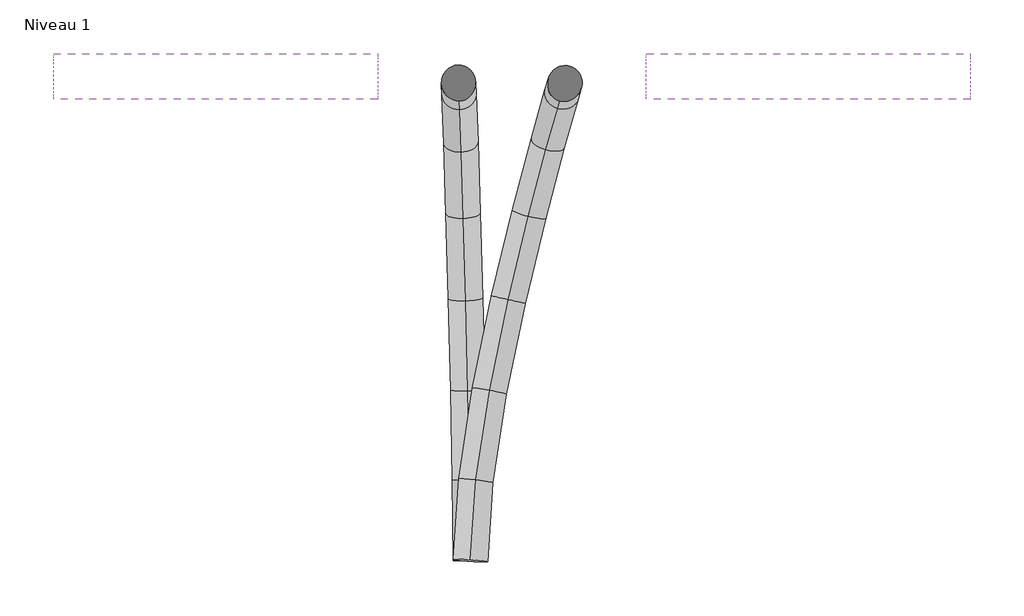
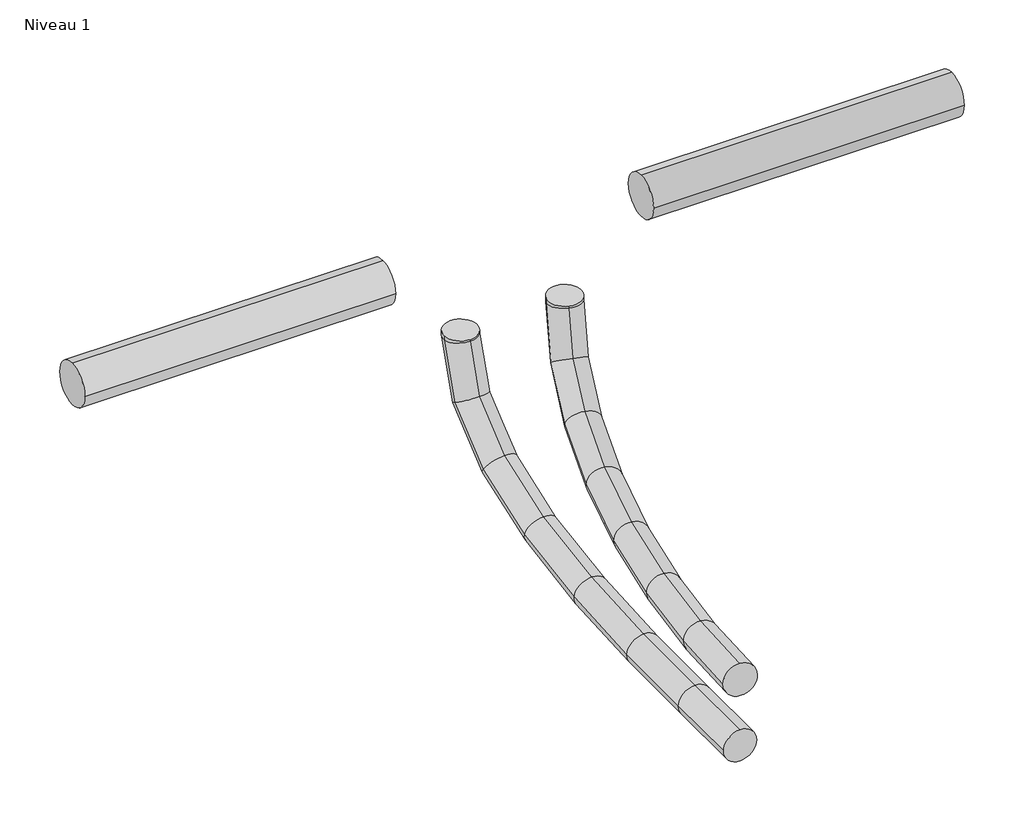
# One storey, incomplete: 4 pipe segments.
"""IFC4 building model written with IfcOpenShell, lengths in millimetres."""

import ifcopenshell
import ifcopenshell.guid

model = None  # the IFC model being written
_history = None  # IfcOwnerHistory: only IFC2X3 demands one
_inside = {}  # id of a spatial element -> (the spatial element, [elements in it])
_under = {}  # id of a project, library or spatial element -> (it, [spatial elements below it])
_declared = {}  # id of a project -> (the project, [libraries it declares])
_typed = {}  # id of a type object -> (the type object, [elements of that type])
_made_of = {}  # id of a material, layer set ... -> (it, [elements and type objects made of it])


def new_model(schema):
    """Start an empty IFC model of exactly this schema.

    Asked for "IFC4X3", IfcOpenShell would pick the latest addendum, in which some entities
    have other attributes; the version numbers below select the first issue.
    IFC2X3 requires an IfcOwnerHistory on every rooted entity: one is made here for all.
    """
    global model, _history
    if schema == "IFC4X3":
        model = ifcopenshell.file(schema_version=(4, 3, 0, 0))
    else:
        model = ifcopenshell.file(schema=schema)
    _inside.clear()
    _under.clear()
    _declared.clear()
    _typed.clear()
    _made_of.clear()
    _history = None
    if model.schema == "IFC2X3":
        org = make("IfcOrganization", Name="unknown")
        user = make(
            "IfcPersonAndOrganization",
            ThePerson=make("IfcPerson", FamilyName="unknown"),
            TheOrganization=org,
        )
        app = make(
            "IfcApplication",
            ApplicationDeveloper=org,
            Version="unknown",
            ApplicationFullName="unknown",
            ApplicationIdentifier="unknown",
        )
        _history = make(
            "IfcOwnerHistory",
            OwningUser=user,
            OwningApplication=app,
            ChangeAction="ADDED",
            CreationDate=0,
        )
    return model


def make(cls, **values):
    """One entity of the class cls with the attributes given. An attribute that is None is left unset."""
    return model.create_entity(
        cls, **{name: value for name, value in values.items() if value is not None}
    )


def rooted(cls, **values):
    """An entity with a GlobalId (a new one), such as an element, a storey or a relation."""
    return make(cls, GlobalId=ifcopenshell.guid.new(), OwnerHistory=_history, **values)


def si_unit(unit_type, name, prefix=None):
    """IfcSIUnit, for example si_unit("LENGTHUNIT", "METRE", prefix="MILLI")."""
    return make("IfcSIUnit", UnitType=unit_type, Prefix=prefix, Name=name)


def assignment(units):
    """IfcUnitAssignment: the units of a project."""
    return None if units is None else make("IfcUnitAssignment", Units=units)


def point(xyz):
    """IfcCartesianPoint."""
    return None if xyz is None else make("IfcCartesianPoint", Coordinates=xyz)


def direction(xyz):
    """IfcDirection."""
    return None if xyz is None else make("IfcDirection", DirectionRatios=xyz)


def frame(location, z_axis=None, x_axis=None):
    """IfcAxis2Placement3D, a coordinate frame: its origin and axes. An axis left out is left unset."""
    return make(
        "IfcAxis2Placement3D",
        Location=point(location),
        Axis=direction(z_axis),
        RefDirection=direction(x_axis),
    )


def frame_2d(location, x_axis=None):
    """IfcAxis2Placement2D, a coordinate frame in the plane: its origin and x axis."""
    return make(
        "IfcAxis2Placement2D", Location=point(location), RefDirection=direction(x_axis)
    )


def origin():
    """The frame at (0, 0, 0) with its axes left unset."""
    return frame((0.0, 0.0, 0.0))


def place(relative_to, where):
    """IfcLocalPlacement: puts the frame where relative to a parent placement (None: the world)."""
    return make(
        "IfcLocalPlacement", PlacementRelTo=relative_to, RelativePlacement=where
    )


def context(
    kind, dimensions, precision=None, world=None, true_north=None, identifier=None
):
    """IfcGeometricRepresentationContext, for example the 3D "Model" context."""
    return make(
        "IfcGeometricRepresentationContext",
        ContextIdentifier=identifier,
        ContextType=kind,
        CoordinateSpaceDimension=dimensions,
        Precision=precision,
        WorldCoordinateSystem=world,
        TrueNorth=true_north,
    )


def project(units=None, contexts=None):
    """IfcProject with its units and contexts."""
    return rooted(
        "IfcProject",
        Name="project",
        RepresentationContexts=contexts,
        UnitsInContext=assignment(units),
    )


def spatial(cls, under=None, at=None, **own):
    """A site, building, storey or space (cls), placed at a placement, below another one or the project."""
    s = rooted(cls, ObjectPlacement=at, **own)
    if under is not None:
        _under.setdefault(under.id(), (under, []))[1].append(s)
    return s


def circle_curve(where, radius):
    """IfcCircle in the frame where."""
    return make("IfcCircle", Position=where, Radius=radius)


def ellipse_curve(where, semi_axis1, semi_axis2):
    """IfcEllipse in the frame where."""
    return make(
        "IfcEllipse", Position=where, SemiAxis1=semi_axis1, SemiAxis2=semi_axis2
    )


def trimmed(basis, trim1, trim2, sense, master):
    """IfcTrimmedCurve: the piece of a basis curve between two trims."""
    return make(
        "IfcTrimmedCurve",
        BasisCurve=basis,
        Trim1=trim1,
        Trim2=trim2,
        SenseAgreement=sense,
        MasterRepresentation=master,
    )


def segment(curve, same_sense, transition):
    """IfcCompositeCurveSegment."""
    return make(
        "IfcCompositeCurveSegment",
        Transition=transition,
        SameSense=same_sense,
        ParentCurve=curve,
    )


def composite_curve(segments, self_intersect=None):
    """IfcCompositeCurve: segments joined end to end."""
    return make("IfcCompositeCurve", Segments=segments, SelfIntersect=self_intersect)


def outline(outer, holes=None, kind="AREA"):
    """IfcArbitraryClosedProfileDef: a profile drawn as a closed curve; with holes, ...WithVoids."""
    if holes is None:
        return make("IfcArbitraryClosedProfileDef", ProfileType=kind, OuterCurve=outer)
    return make(
        "IfcArbitraryProfileDefWithVoids",
        ProfileType=kind,
        OuterCurve=outer,
        InnerCurves=holes,
    )


def extrude(swept, where, along, depth):
    """IfcExtrudedAreaSolid: the profile swept, set in the frame where, extruded along a direction by depth."""
    return make(
        "IfcExtrudedAreaSolid",
        SweptArea=swept,
        Position=where,
        ExtrudedDirection=direction(along),
        Depth=depth,
    )


def shape(context_of_items, identifier, shape_type, items):
    """IfcShapeRepresentation: the items that make up one representation, for example the "Body"."""
    return make(
        "IfcShapeRepresentation",
        ContextOfItems=context_of_items,
        RepresentationIdentifier=identifier,
        RepresentationType=shape_type,
        Items=items,
    )


def made_of(thing, what):
    """Note that an element or type object is made of a material, layer set ...; save() writes the relation."""
    if what is not None:
        _made_of.setdefault(what.id(), (what, []))[1].append(thing)
    return thing


def element(
    cls,
    number,
    at=None,
    inside=None,
    cuts=None,
    type_object=None,
    material=None,
    context=None,
    identifier="Body",
    shape_type=None,
    held_by="IfcProductDefinitionShape",
    body=None,
    shapes=None,
    **own,
):
    """One element of the class cls, such as IfcWall. Its Tag is "e" and its number.

    at: its placement. inside: the storey or other place that contains it. cuts: it is an
    opening in that element (IfcRelVoidsElement). A single representation is given by context,
    identifier, shape_type and body (its items); several are given by shapes. held_by: the class
    of the entity that holds the representations. save() writes the other relations.
    """
    e = rooted(cls, Tag="e%d" % number, ObjectPlacement=at, **own)
    if body is not None:
        shapes = [shape(context, identifier, shape_type, body)]
    if shapes is not None:
        e.Representation = make(held_by, Representations=shapes)
    if inside is not None:
        _inside.setdefault(inside.id(), (inside, []))[1].append(e)
    if cuts is not None:
        rooted(
            "IfcRelVoidsElement", RelatingBuildingElement=cuts, RelatedOpeningElement=e
        )
    if type_object is not None:
        _typed.setdefault(type_object.id(), (type_object, []))[1].append(e)
    return made_of(e, material)


def aggregate(whole, parts):
    """IfcRelAggregates: a whole, such as a stair, and the parts it consists of."""
    return rooted("IfcRelAggregates", RelatingObject=whole, RelatedObjects=parts)


def save(model, path):
    """Write the relations noted so far, then the file.

    IfcRelAggregates (storeys below a building ...), IfcRelContainedInSpatialStructure (elements
    in a storey), IfcRelDefinesByType, IfcRelAssociatesMaterial and IfcRelDeclares: one each for
    every whole, place, type object, material and project.
    """
    for whole, parts in _under.values():
        aggregate(whole, parts)
    for where, things in _inside.values():
        rooted(
            "IfcRelContainedInSpatialStructure",
            RelatedElements=things,
            RelatingStructure=where,
        )
    for kind, things in _typed.values():
        rooted("IfcRelDefinesByType", RelatedObjects=things, RelatingType=kind)
    for what, things in _made_of.values():
        rooted("IfcRelAssociatesMaterial", RelatedObjects=things, RelatingMaterial=what)
    for by, libraries in _declared.values():
        rooted("IfcRelDeclares", RelatingContext=by, RelatedDefinitions=libraries)
    model.write(path)


def plane_surface(at):
    """IfcPlane: the flat surface through the origin of the frame at, square to its z axis."""
    return make("IfcPlane", Position=at)


def cylinder_surface(at, radius):
    """IfcCylindricalSurface: all points at the distance radius from the z axis of the frame at."""
    return make("IfcCylindricalSurface", Position=at, Radius=radius)


def advanced_brep(points, edges, surfaces, faces):
    """IfcAdvancedBrep: a solid bounded by faces that lie on surfaces and meet in shared edges.

    An edge is (start, end): straight between two places in points (the first is 0);
    or (start, end, curve); or (start, end, curve, False) where it runs against its curve.
    A face is (place in surfaces, loops), or (place, loops, False) where it looks against
    its surface's normal. A loop lists edges by number (the first is 1), with a minus sign
    where the edge is run from its end to its start. The first loop is the outer one.
    """
    corners = [point(p) for p in points]
    vertices = [make("IfcVertexPoint", VertexGeometry=c) for c in corners]
    made = []
    for start, end, *more in edges:
        made.append(
            make(
                "IfcEdgeCurve",
                EdgeStart=vertices[start],
                EdgeEnd=vertices[end],
                EdgeGeometry=more[0] if more else make("IfcPolyline", Points=[corners[start], corners[end]]),
                SameSense=more[1] if len(more) > 1 else True,
            )
        )
    hull = []
    for where, loops, *sense in faces:
        bounds = []
        for j, loop in enumerate(loops):
            ring = [make("IfcOrientedEdge", EdgeElement=made[abs(k) - 1], Orientation=k > 0) for k in loop]
            bounds.append(
                make(
                    "IfcFaceOuterBound" if j == 0 else "IfcFaceBound",
                    Bound=make("IfcEdgeLoop", EdgeList=ring),
                    Orientation=True,
                )
            )
        hull.append(make("IfcAdvancedFace", Bounds=bounds, FaceSurface=surfaces[where], SameSense=sense[0] if sense else True))
    return make("IfcAdvancedBrep", Outer=make("IfcClosedShell", CfsFaces=hull))


model = new_model("IFC4")

# Units and contexts
model_context = context("Model", 3, world=origin())
ifc_project = project(units=[si_unit("LENGTHUNIT", "METRE", prefix="MILLI")], contexts=[model_context])

# Site, building, storey
site = spatial("IfcSite", under=ifc_project)
building = spatial("IfcBuilding", under=site)
storey = spatial("IfcBuildingStorey", under=building, Name="Niveau 1", Elevation=0.0)

# Pipe segments
placement = place(None, origin())
element("IfcPipeSegment", 1, ObjectType="Souple - Circulaire", at=placement, inside=storey, context=model_context, shape_type="AdvancedBrep", body=[
    advanced_brep(
    [(897.896121, -8797.641537, 1134.8282029), (913.8134553, -8799.4086425, 1118.8433411), (929.8241044, -8799.7872004, 1134.8282029), (913.9067701, -8798.0200949, 1150.8130647), (902.8988503, -8723.1997297, 1131.5803545), (918.7535758, -8725.8984687, 1115.6361392), (934.7353434, -8726.706791, 1131.6397514), (918.8806179, -8724.0080521, 1147.5839666), (987.9577806, -8345.7419952, 1223.8970087), (998.9671677, -8365.5104902, 1223.8970087), (1018.7356627, -8354.501103, 1223.8970087), (1007.7262756, -8334.732608, 1223.8970087), (915.8474128, -8639.0226365, 1125.2019982), (931.5287972, -8642.8482456, 1109.3431694), (947.3543835, -8644.6718846, 1125.4237152), (931.6729991, -8640.8462754, 1141.282544), (933.4630339, -8553.4546568, 1120.8279341), (949.1806716, -8557.1041656, 1104.9601034), (964.6985455, -8560.4225193, 1121.117056), (948.9809078, -8556.7730105, 1136.9848867), (952.6171419, -8473.8330401, 1123.4954472), (968.7163492, -8475.8964038, 1107.6807561), (983.6349475, -8481.7058835, 1123.7542501), (967.5357401, -8479.6425198, 1139.5689412), (970.1798907, -8407.633363, 1138.2459868), (987.3355365, -8405.7146689, 1123.3185734), (1001.0319817, -8416.1308383, 1138.3656099), (983.8763359, -8418.0495324, 1153.2930232), (983.0009357, -8362.4387003, 1170.0838988), (1002.0051894, -8354.0035944, 1159.7470485), (1013.7785393, -8371.1987466, 1170.0185507), (994.7742856, -8379.6338525, 1180.355401), (987.9577806, -8345.7419952, 1219.0040156), (1007.7262756, -8334.732608, 1216.2096197), (1018.7356627, -8354.501103, 1218.9414171), (998.9671677, -8365.5104902, 1221.735813)],
    [
        (0, 1, circle_curve(frame((913.8601127, -8798.7143687, 1134.8282029), z_axis=(-0.06698854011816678, -0.9968054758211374, 0.04348998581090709), x_axis=(-0.9977494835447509, 0.06705198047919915, 0.0)), 16.0)),
        (1, 2, circle_curve(frame((913.8601127, -8798.7143687, 1134.8282029), z_axis=(-0.06698854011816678, -0.9968054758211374, 0.04348998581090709), x_axis=(-0.9977494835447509, 0.06705198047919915, 0.0)), 16.0)),
        (2, 3, circle_curve(frame((913.8601127, -8798.7143687, 1134.8282029), z_axis=(-0.06698854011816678, -0.9968054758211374, 0.04348998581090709), x_axis=(-0.9977494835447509, 0.06705198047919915, 0.0)), 16.0)),
        (3, 0, circle_curve(frame((913.8601127, -8798.7143687, 1134.8282029), z_axis=(-0.06698854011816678, -0.9968054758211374, 0.04348998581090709), x_axis=(-0.9977494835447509, 0.06705198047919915, 0.0)), 16.0)),
        (0, 4),
        (4, 5, ellipse_curve(frame((918.8170969, -8724.9532604, 1131.6100529), z_axis=(-0.10941349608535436, -0.9922349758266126, 0.05914760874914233), x_axis=(0.931145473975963, -0.12313715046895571, -0.34322783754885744)), 16.0165445, 16.0)),
        (5, 1),
        (5, 6, ellipse_curve(frame((918.8170969, -8724.9532604, 1131.6100529), z_axis=(-0.10941349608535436, -0.9922349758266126, 0.05914760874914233), x_axis=(0.931145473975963, -0.12313715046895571, -0.34322783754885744)), 16.0165445, 16.0)),
        (6, 2),
        (6, 7, ellipse_curve(frame((918.8170969, -8724.9532604, 1131.6100529), z_axis=(-0.10941349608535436, -0.9922349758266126, 0.05914760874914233), x_axis=(0.931145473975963, -0.12313715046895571, -0.34322783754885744)), 16.0165445, 16.0)),
        (7, 3),
        (7, 4, ellipse_curve(frame((918.8170969, -8724.9532604, 1131.6100529), z_axis=(-0.10941349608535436, -0.9922349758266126, 0.05914760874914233), x_axis=(0.931145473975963, -0.12313715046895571, -0.34322783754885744)), 16.0165445, 16.0)),
        (8, 9, circle_curve(frame((1003.3467217, -8350.1215491, 1223.8970087), z_axis=(0.0, 0.0, 1.0), x_axis=(-0.961808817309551, 0.2737221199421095, 0.0)), 16.0)),
        (9, 10, circle_curve(frame((1003.3467217, -8350.1215491, 1223.8970087), z_axis=(0.0, 0.0, 1.0), x_axis=(-0.961808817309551, 0.2737221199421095, 0.0)), 16.0)),
        (10, 11, circle_curve(frame((1003.3467217, -8350.1215491, 1223.8970087), z_axis=(0.0, 0.0, 1.0), x_axis=(-0.961808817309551, 0.2737221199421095, 0.0)), 16.0)),
        (11, 8, circle_curve(frame((1003.3467217, -8350.1215491, 1223.8970087), z_axis=(0.0, 0.0, 1.0), x_axis=(-0.961808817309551, 0.2737221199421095, 0.0)), 16.0)),
        (4, 12),
        (12, 13, ellipse_curve(frame((931.6008981, -8641.8472605, 1125.3128567), z_axis=(-0.17656864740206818, -0.982310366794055, 0.06236871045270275), x_axis=(0.8881270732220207, -0.13168201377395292, 0.44032959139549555)), 16.0062855, 16.0)),
        (13, 5),
        (13, 14, ellipse_curve(frame((931.6008981, -8641.8472605, 1125.3128567), z_axis=(-0.17656864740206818, -0.982310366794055, 0.06236871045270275), x_axis=(0.8881270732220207, -0.13168201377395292, 0.44032959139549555)), 16.0062855, 16.0)),
        (14, 6),
        (14, 15, ellipse_curve(frame((931.6008981, -8641.8472605, 1125.3128567), z_axis=(-0.17656864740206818, -0.982310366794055, 0.06236871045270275), x_axis=(0.8881270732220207, -0.13168201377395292, 0.44032959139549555)), 16.0062855, 16.0)),
        (15, 7),
        (15, 12, ellipse_curve(frame((931.6008981, -8641.8472605, 1125.3128567), z_axis=(-0.17656864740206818, -0.982310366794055, 0.06236871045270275), x_axis=(0.8881270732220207, -0.13168201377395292, 0.44032959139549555)), 16.0062855, 16.0)),
        (12, 16),
        (16, 17, ellipse_curve(frame((949.0807897, -8556.9385881, 1120.9724951), z_axis=(-0.21779226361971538, -0.9759560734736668, 0.00873341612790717), x_axis=(0.3641576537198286, -0.07295610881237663, 0.9284754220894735)), 16.0158375, 16.0)),
        (17, 13),
        (17, 18, ellipse_curve(frame((949.0807897, -8556.9385881, 1120.9724951), z_axis=(-0.21779226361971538, -0.9759560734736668, 0.00873341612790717), x_axis=(0.3641576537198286, -0.07295610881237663, 0.9284754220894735)), 16.0158375, 16.0)),
        (18, 14),
        (18, 19, ellipse_curve(frame((949.0807897, -8556.9385881, 1120.9724951), z_axis=(-0.21779226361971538, -0.9759560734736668, 0.00873341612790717), x_axis=(0.3641576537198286, -0.07295610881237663, 0.9284754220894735)), 16.0158375, 16.0)),
        (19, 15),
        (19, 16, ellipse_curve(frame((949.0807897, -8556.9385881, 1120.9724951), z_axis=(-0.21779226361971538, -0.9759560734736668, 0.00873341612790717), x_axis=(0.3641576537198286, -0.07295610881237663, 0.9284754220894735)), 16.0158375, 16.0)),
        (16, 20),
        (20, 21, ellipse_curve(frame((968.1260447, -8477.7694618, 1123.6248487), z_axis=(-0.24322004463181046, -0.9622620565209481, -0.12204812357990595), x_axis=(0.09355172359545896, -0.14851158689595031, 0.9844756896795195)), 16.0657748, 16.0)),
        (21, 17),
        (21, 22, ellipse_curve(frame((968.1260447, -8477.7694618, 1123.6248487), z_axis=(-0.24322004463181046, -0.9622620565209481, -0.12204812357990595), x_axis=(0.09355172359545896, -0.14851158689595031, 0.9844756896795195)), 16.0657748, 16.0)),
        (22, 18),
        (22, 23, ellipse_curve(frame((968.1260447, -8477.7694618, 1123.6248487), z_axis=(-0.24322004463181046, -0.9622620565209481, -0.12204812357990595), x_axis=(0.09355172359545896, -0.14851158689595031, 0.9844756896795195)), 16.0657748, 16.0)),
        (23, 19),
        (23, 20, ellipse_curve(frame((968.1260447, -8477.7694618, 1123.6248487), z_axis=(-0.24322004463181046, -0.9622620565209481, -0.12204812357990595), x_axis=(0.09355172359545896, -0.14851158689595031, 0.9844756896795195)), 16.0657748, 16.0)),
        (20, 24),
        (24, 25, ellipse_curve(frame((985.6059362, -8411.8821006, 1138.3057983), z_axis=(-0.24275696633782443, -0.8869188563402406, -0.3929936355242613), x_axis=(-0.0649110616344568, -0.389352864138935, 0.9187986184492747)), 16.2991985, 16.0)),
        (25, 21),
        (25, 26, ellipse_curve(frame((985.6059362, -8411.8821006, 1138.3057983), z_axis=(-0.24275696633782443, -0.8869188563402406, -0.3929936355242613), x_axis=(-0.0649110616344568, -0.389352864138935, 0.9187986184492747)), 16.2991985, 16.0)),
        (26, 22),
        (26, 27, ellipse_curve(frame((985.6059362, -8411.8821006, 1138.3057983), z_axis=(-0.24275696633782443, -0.8869188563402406, -0.3929936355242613), x_axis=(-0.0649110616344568, -0.389352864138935, 0.9187986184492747)), 16.2991985, 16.0)),
        (27, 23),
        (27, 24, ellipse_curve(frame((985.6059362, -8411.8821006, 1138.3057983), z_axis=(-0.24275696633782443, -0.8869188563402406, -0.3929936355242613), x_axis=(-0.0649110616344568, -0.389352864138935, 0.9187986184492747)), 16.2991985, 16.0)),
        (24, 28),
        (28, 29, ellipse_curve(frame((998.3897375, -8366.8187234, 1170.0512248), z_axis=(-0.16909167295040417, -0.5881882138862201, -0.7908493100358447), x_axis=(-0.20952915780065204, -0.7626091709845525, 0.6119843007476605)), 16.8367445, 16.0)),
        (29, 25),
        (29, 30, ellipse_curve(frame((998.3897375, -8366.8187234, 1170.0512248), z_axis=(-0.16909167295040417, -0.5881882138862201, -0.7908493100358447), x_axis=(-0.20952915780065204, -0.7626091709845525, 0.6119843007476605)), 16.8367445, 16.0)),
        (30, 26),
        (30, 31, ellipse_curve(frame((998.3897375, -8366.8187234, 1170.0512248), z_axis=(-0.16909167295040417, -0.5881882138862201, -0.7908493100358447), x_axis=(-0.20952915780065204, -0.7626091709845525, 0.6119843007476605)), 16.8367445, 16.0)),
        (31, 27),
        (31, 28, ellipse_curve(frame((998.3897375, -8366.8187234, 1170.0512248), z_axis=(-0.16909167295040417, -0.5881882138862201, -0.7908493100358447), x_axis=(-0.20952915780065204, -0.7626091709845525, 0.6119843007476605)), 16.8367445, 16.0)),
        (28, 32),
        (32, 33, ellipse_curve(frame((1003.3467217, -8350.1215491, 1218.9727164), z_axis=(-0.04843451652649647, -0.16314749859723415, -0.9854120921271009), x_axis=(-0.2804471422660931, -0.9446620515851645, 0.17018521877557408)), 16.2368618, 16.0)),
        (33, 29),
        (33, 34, ellipse_curve(frame((1003.3467217, -8350.1215491, 1218.9727164), z_axis=(-0.04843451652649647, -0.16314749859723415, -0.9854120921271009), x_axis=(-0.2804471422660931, -0.9446620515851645, 0.17018521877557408)), 16.2368618, 16.0)),
        (34, 30),
        (34, 35, ellipse_curve(frame((1003.3467217, -8350.1215491, 1218.9727164), z_axis=(-0.04843451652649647, -0.16314749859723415, -0.9854120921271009), x_axis=(-0.2804471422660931, -0.9446620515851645, 0.17018521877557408)), 16.2368618, 16.0)),
        (35, 31),
        (35, 32, ellipse_curve(frame((1003.3467217, -8350.1215491, 1218.9727164), z_axis=(-0.04843451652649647, -0.16314749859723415, -0.9854120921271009), x_axis=(-0.2804471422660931, -0.9446620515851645, 0.17018521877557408)), 16.2368618, 16.0)),
        (32, 8),
        (11, 33),
        (10, 34),
        (9, 35),
    ],
    [
        plane_surface(frame((913.8601127, -8798.0169624, 1150.8129965), z_axis=(-0.0669885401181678, -0.9968054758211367, 0.04348998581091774), x_axis=(0.9977537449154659, -0.06692487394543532, 0.0029198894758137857))),
        cylinder_surface(frame((913.8601127, -8798.7143687, 1134.8282029), z_axis=(-0.06698854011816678, -0.9968054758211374, 0.04348998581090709), x_axis=(-0.9977494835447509, 0.06705198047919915, 0.0)), 16.0),
        plane_surface(frame((1003.3467217, -8366.1215491, 1223.8970087), z_axis=(0.0, 0.0, 1.0), x_axis=(1.0, 0.0, 0.0))),
        cylinder_surface(frame((918.8170969, -8724.9532604, 1131.6100529), z_axis=(-0.15161241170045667, -0.9856145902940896, 0.07468303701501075), x_axis=(-0.9884195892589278, 0.15166172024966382, -0.005043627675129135)), 16.0),
        cylinder_surface(frame((931.6008981, -8641.8472605, 1125.3128567), z_axis=(-0.20138621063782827, -0.9782346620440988, 0.05000540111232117), x_axis=(-0.9795097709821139, 0.20123001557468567, -0.008190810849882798)), 16.0),
        cylinder_surface(frame((949.0807897, -8556.9385881, 1120.9724951), z_axis=(-0.2337675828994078, -0.9717473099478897, -0.03255584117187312), x_axis=(-0.9721630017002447, 0.23415186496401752, -0.008485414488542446)), 16.0),
        cylinder_surface(frame((968.1260447, -8477.7694618, 1123.6248487), z_axis=(-0.25068097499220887, -0.9448976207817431, -0.21054105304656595), x_axis=(-0.9662431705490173, 0.2575727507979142, -0.00551483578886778)), 16.0),
        cylinder_surface(frame((985.6059362, -8411.8821006, 1138.3057983), z_axis=(-0.22592055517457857, -0.7963783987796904, -0.5610181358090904), x_axis=(-0.962221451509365, 0.27226620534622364, 0.0009958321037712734)), 16.0),
        cylinder_surface(frame((998.3897375, -8366.8187234, 1170.0512248), z_axis=(-0.0954559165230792, -0.32153503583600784, -0.9420739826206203), x_axis=(-0.961622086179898, 0.27435110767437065, 0.0037990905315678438)), 16.0),
        cylinder_surface(frame((1003.3467217, -8350.1215491, 1218.9727164), z_axis=(0.0, 0.0, -1.0), x_axis=(-0.961808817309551, 0.2737221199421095, 0.0)), 16.0),
    ],
    [
        (0, [[1, 2, 3, 4]]),
        (1, [[-1, 5, 6, 7]]),
        (1, [[-2, -7, 8, 9]]),
        (1, [[-3, -9, 10, 11]]),
        (1, [[-4, -11, 12, -5]]),
        (2, [[13, 14, 15, 16]]),
        (3, [[-6, 17, 18, 19]]),
        (3, [[-8, -19, 20, 21]]),
        (3, [[-10, -21, 22, 23]]),
        (3, [[-12, -23, 24, -17]]),
        (4, [[-18, 25, 26, 27]]),
        (4, [[-20, -27, 28, 29]]),
        (4, [[-22, -29, 30, 31]]),
        (4, [[-24, -31, 32, -25]]),
        (5, [[-26, 33, 34, 35]]),
        (5, [[-28, -35, 36, 37]]),
        (5, [[-30, -37, 38, 39]]),
        (5, [[-32, -39, 40, -33]]),
        (6, [[-34, 41, 42, 43]]),
        (6, [[-36, -43, 44, 45]]),
        (6, [[-38, -45, 46, 47]]),
        (6, [[-40, -47, 48, -41]]),
        (7, [[-42, 49, 50, 51]]),
        (7, [[-44, -51, 52, 53]]),
        (7, [[-46, -53, 54, 55]]),
        (7, [[-48, -55, 56, -49]]),
        (8, [[-50, 57, 58, 59]]),
        (8, [[-52, -59, 60, 61]]),
        (8, [[-54, -61, 62, 63]]),
        (8, [[-56, -63, 64, -57]]),
        (9, [[-58, 65, -16, 66]]),
        (9, [[-60, -66, -15, 67]]),
        (9, [[-62, -67, -14, 68]]),
        (9, [[-64, -68, -13, -65]]),
    ],
),
])
element("IfcPipeSegment", 2, ObjectType="Souple - Circulaire", at=placement, inside=storey, context=model_context, shape_type="AdvancedBrep", body=[
    advanced_brep(
    [(897.8606505, -8798.8455559, 1067.6011432), (913.8595185, -8798.6418997, 1051.6013073), (929.8595749, -8798.5831815, 1067.6011432), (913.8607069, -8798.7868377, 1083.6009791), (897.2487208, -8724.2152242, 1067.9391935), (913.2448939, -8723.6829087, 1051.9408463), (929.2462387, -8723.7813188, 1067.9399705), (913.2500655, -8724.3136342, 1083.9383176), (886.8086595, -8350.6332321, 1223.7490798), (903.3121585, -8366.1133651, 1223.7490798), (918.7922916, -8349.6098661, 1223.7490798), (902.2887925, -8334.129733, 1223.7490798), (895.6713767, -8640.8754282, 1070.8485425), (911.6508128, -8639.4587999, 1054.8810663), (927.6636864, -8640.1663459, 1070.8589258), (911.6842504, -8641.5829742, 1086.826402), (893.5132132, -8556.1051954, 1079.1782718), (909.4554652, -8553.2280199, 1063.3543125), (925.5011753, -8555.2253437, 1079.2054353), (909.5589233, -8558.1025191, 1095.0293947), (891.1610263, -8477.3084479, 1095.7772266), (907.0308189, -8472.0039296, 1080.4645999), (923.1457615, -8476.3204979, 1095.8271615), (907.2759689, -8481.6250162, 1111.1397882), (889.0015741, -8411.8723455, 1123.496681), (904.7375311, -8402.5123177, 1109.9020128), (920.9845392, -8410.830757, 1123.5693378), (905.2485822, -8420.1907848, 1137.1640059), (887.421542, -8367.1779791, 1165.1984397), (902.9736712, -8352.6180141, 1156.4555359), (919.4046749, -8366.1411382, 1165.2666669), (903.8525457, -8380.7011032, 1174.0095707), (886.8086595, -8350.6332321, 1219.3827779), (902.2887925, -8334.129733, 1217.0049821), (918.7922916, -8349.6098661, 1219.4068742), (903.3121585, -8366.1133651, 1221.78467)],
    [
        (0, 1, circle_curve(frame((913.8601127, -8798.7143687, 1067.6011432), z_axis=(0.008199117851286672, -0.9999561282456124, -0.004529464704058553), x_axis=(-0.9999663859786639, -0.008199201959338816, 0.0)), 16.0)),
        (1, 2, circle_curve(frame((913.8601127, -8798.7143687, 1067.6011432), z_axis=(0.008199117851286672, -0.9999561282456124, -0.004529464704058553), x_axis=(-0.9999663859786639, -0.008199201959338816, 0.0)), 16.0)),
        (2, 3, circle_curve(frame((913.8601127, -8798.7143687, 1067.6011432), z_axis=(0.008199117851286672, -0.9999561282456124, -0.004529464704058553), x_axis=(-0.9999663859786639, -0.008199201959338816, 0.0)), 16.0)),
        (3, 0, circle_curve(frame((913.8601127, -8798.7143687, 1067.6011432), z_axis=(0.008199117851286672, -0.9999561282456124, -0.004529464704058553), x_axis=(-0.9999663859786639, -0.008199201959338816, 0.0)), 16.0)),
        (0, 4),
        (4, 5, ellipse_curve(frame((913.2474797, -8723.9982715, 1067.939582), z_axis=(0.01355719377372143, -0.9997138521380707, -0.01970828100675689), x_axis=(-0.3327308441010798, -0.023097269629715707, 0.9427389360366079)), 16.0020736, 16.0)),
        (5, 1),
        (5, 6, ellipse_curve(frame((913.2474797, -8723.9982715, 1067.939582), z_axis=(0.01355719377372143, -0.9997138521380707, -0.01970828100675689), x_axis=(-0.3327308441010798, -0.023097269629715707, 0.9427389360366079)), 16.0020736, 16.0)),
        (6, 2),
        (6, 7, ellipse_curve(frame((913.2474797, -8723.9982715, 1067.939582), z_axis=(0.01355719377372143, -0.9997138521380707, -0.01970828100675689), x_axis=(-0.3327308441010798, -0.023097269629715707, 0.9427389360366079)), 16.0020736, 16.0)),
        (7, 3),
        (7, 4, ellipse_curve(frame((913.2474797, -8723.9982715, 1067.939582), z_axis=(0.01355719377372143, -0.9997138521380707, -0.01970828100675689), x_axis=(-0.3327308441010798, -0.023097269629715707, 0.9427389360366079)), 16.0020736, 16.0)),
        (8, 9, circle_curve(frame((902.8004755, -8350.1215491, 1223.7490798), z_axis=(0.0, 0.0, 1.0), x_axis=(-0.9994885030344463, -0.031980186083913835, 0.0)), 16.0)),
        (9, 10, circle_curve(frame((902.8004755, -8350.1215491, 1223.7490798), z_axis=(0.0, 0.0, 1.0), x_axis=(-0.9994885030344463, -0.031980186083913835, 0.0)), 16.0)),
        (10, 11, circle_curve(frame((902.8004755, -8350.1215491, 1223.7490798), z_axis=(0.0, 0.0, 1.0), x_axis=(-0.9994885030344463, -0.031980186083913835, 0.0)), 16.0)),
        (11, 8, circle_curve(frame((902.8004755, -8350.1215491, 1223.7490798), z_axis=(0.0, 0.0, 1.0), x_axis=(-0.9994885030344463, -0.031980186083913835, 0.0)), 16.0)),
        (4, 12),
        (12, 13, ellipse_curve(frame((911.6675316, -8640.5208871, 1070.8537342), z_axis=(0.022131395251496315, -0.9975506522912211, -0.06635433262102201), x_axis=(-0.10129147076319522, -0.06826638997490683, 0.9925118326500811)), 16.0080331, 16.0)),
        (13, 5),
        (13, 14, ellipse_curve(frame((911.6675316, -8640.5208871, 1070.8537342), z_axis=(0.022131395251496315, -0.9975506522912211, -0.06635433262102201), x_axis=(-0.10129147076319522, -0.06826638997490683, 0.9925118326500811)), 16.0080331, 16.0)),
        (14, 6),
        (14, 15, ellipse_curve(frame((911.6675316, -8640.5208871, 1070.8537342), z_axis=(0.022131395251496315, -0.9975506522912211, -0.06635433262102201), x_axis=(-0.10129147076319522, -0.06826638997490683, 0.9925118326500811)), 16.0080331, 16.0)),
        (15, 7),
        (15, 12, ellipse_curve(frame((911.6675316, -8640.5208871, 1070.8537342), z_axis=(0.022131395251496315, -0.9975506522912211, -0.06635433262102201), x_axis=(-0.10129147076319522, -0.06826638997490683, 0.9925118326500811)), 16.0080331, 16.0)),
        (12, 16),
        (16, 17, ellipse_curve(frame((909.5071943, -8555.6652695, 1079.1918536), z_axis=(0.02730436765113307, -0.9879831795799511, -0.15213056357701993), x_axis=(-0.035286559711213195, -0.1530450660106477, 0.9875890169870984)), 16.024098, 16.0)),
        (17, 13),
        (17, 18, ellipse_curve(frame((909.5071943, -8555.6652695, 1079.1918536), z_axis=(0.02730436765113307, -0.9879831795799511, -0.15213056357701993), x_axis=(-0.035286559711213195, -0.1530450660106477, 0.9875890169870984)), 16.024098, 16.0)),
        (18, 14),
        (18, 19, ellipse_curve(frame((909.5071943, -8555.6652695, 1079.1918536), z_axis=(0.02730436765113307, -0.9879831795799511, -0.15213056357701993), x_axis=(-0.035286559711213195, -0.1530450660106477, 0.9875890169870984)), 16.024098, 16.0)),
        (19, 15),
        (19, 16, ellipse_curve(frame((909.5071943, -8555.6652695, 1079.1918536), z_axis=(0.02730436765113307, -0.9879831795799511, -0.15213056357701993), x_axis=(-0.035286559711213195, -0.1530450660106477, 0.9875890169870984)), 16.024098, 16.0)),
        (16, 20),
        (20, 21, ellipse_curve(frame((907.1533939, -8476.8144729, 1095.802194), z_axis=(0.029924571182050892, -0.9536730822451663, -0.2993529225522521), x_axis=(-0.006098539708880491, -0.2996556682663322, 0.9540279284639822)), 16.0747815, 16.0)),
        (21, 17),
        (21, 22, ellipse_curve(frame((907.1533939, -8476.8144729, 1095.802194), z_axis=(0.029924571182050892, -0.9536730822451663, -0.2993529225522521), x_axis=(-0.006098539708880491, -0.2996556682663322, 0.9540279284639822)), 16.0747815, 16.0)),
        (22, 18),
        (22, 23, ellipse_curve(frame((907.1533939, -8476.8144729, 1095.802194), z_axis=(0.029924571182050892, -0.9536730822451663, -0.2993529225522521), x_axis=(-0.006098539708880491, -0.2996556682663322, 0.9540279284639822)), 16.0747815, 16.0)),
        (23, 19),
        (23, 20, ellipse_curve(frame((907.1533939, -8476.8144729, 1095.802194), z_axis=(0.029924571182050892, -0.9536730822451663, -0.2993529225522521), x_axis=(-0.006098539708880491, -0.2996556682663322, 0.9540279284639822)), 16.0747815, 16.0)),
        (20, 24),
        (24, 25, ellipse_curve(frame((904.9930566, -8411.3515513, 1123.5330094), z_axis=(0.02854198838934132, -0.8384452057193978, -0.5442379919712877), x_axis=(0.01302061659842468, -0.5441017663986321, 0.8389181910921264)), 16.248122, 16.0)),
        (25, 21),
        (25, 26, ellipse_curve(frame((904.9930566, -8411.3515513, 1123.5330094), z_axis=(0.02854198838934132, -0.8384452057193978, -0.5442379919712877), x_axis=(0.01302061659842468, -0.5441017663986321, 0.8389181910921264)), 16.248122, 16.0)),
        (26, 22),
        (26, 27, ellipse_curve(frame((904.9930566, -8411.3515513, 1123.5330094), z_axis=(0.02854198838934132, -0.8384452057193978, -0.5442379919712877), x_axis=(0.01302061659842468, -0.5441017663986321, 0.8389181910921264)), 16.248122, 16.0)),
        (27, 23),
        (27, 24, ellipse_curve(frame((904.9930566, -8411.3515513, 1123.5330094), z_axis=(0.02854198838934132, -0.8384452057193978, -0.5442379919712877), x_axis=(0.01302061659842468, -0.5441017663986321, 0.8389181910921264)), 16.248122, 16.0)),
        (24, 28),
        (28, 29, ellipse_curve(frame((903.4131085, -8366.6595586, 1165.2325533), z_axis=(0.018975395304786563, -0.5295221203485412, -0.8480838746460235), x_axis=(0.029009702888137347, -0.8475878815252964, 0.5298615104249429)), 16.5648494, 16.0)),
        (29, 25),
        (29, 30, ellipse_curve(frame((903.4131085, -8366.6595586, 1165.2325533), z_axis=(0.018975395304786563, -0.5295221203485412, -0.8480838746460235), x_axis=(0.029009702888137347, -0.8475878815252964, 0.5298615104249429)), 16.5648494, 16.0)),
        (30, 26),
        (30, 31, ellipse_curve(frame((903.4131085, -8366.6595586, 1165.2325533), z_axis=(0.018975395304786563, -0.5295221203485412, -0.8480838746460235), x_axis=(0.029009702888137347, -0.8475878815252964, 0.5298615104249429)), 16.5648494, 16.0)),
        (31, 27),
        (31, 28, ellipse_curve(frame((903.4131085, -8366.6595586, 1165.2325533), z_axis=(0.018975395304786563, -0.5295221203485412, -0.8480838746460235), x_axis=(0.029009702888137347, -0.8475878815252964, 0.5298615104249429)), 16.5648494, 16.0)),
        (28, 32),
        (32, 33, ellipse_curve(frame((902.8004755, -8350.1215491, 1219.3948261), z_axis=(0.005468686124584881, -0.14762702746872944, -0.9890279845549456), x_axis=(0.0366123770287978, -0.9883500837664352, 0.1477282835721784)), 16.1774998, 16.0)),
        (33, 29),
        (33, 34, ellipse_curve(frame((902.8004755, -8350.1215491, 1219.3948261), z_axis=(0.005468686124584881, -0.14762702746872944, -0.9890279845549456), x_axis=(0.0366123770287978, -0.9883500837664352, 0.1477282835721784)), 16.1774998, 16.0)),
        (34, 30),
        (34, 35, ellipse_curve(frame((902.8004755, -8350.1215491, 1219.3948261), z_axis=(0.005468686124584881, -0.14762702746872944, -0.9890279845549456), x_axis=(0.0366123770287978, -0.9883500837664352, 0.1477282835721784)), 16.1774998, 16.0)),
        (35, 31),
        (35, 32, ellipse_curve(frame((902.8004755, -8350.1215491, 1219.3948261), z_axis=(0.005468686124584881, -0.14762702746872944, -0.9890279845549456), x_axis=(0.0366123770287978, -0.9883500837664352, 0.1477282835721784)), 16.1774998, 16.0)),
        (32, 8),
        (11, 33),
        (10, 34),
        (9, 35),
    ],
    [
        plane_surface(frame((913.8601127, -8798.7868426, 1083.6009791), z_axis=(0.008199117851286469, -0.9999561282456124, -0.004529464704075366), x_axis=(0.9999663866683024, 0.008199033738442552, 3.71388632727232e-05))),
        cylinder_surface(frame((913.8601127, -8798.7143687, 1067.6011432), z_axis=(0.008199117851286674, -0.9999561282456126, -0.004529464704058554), x_axis=(-0.9999663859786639, -0.008199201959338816, 0.0)), 16.0),
        plane_surface(frame((902.8004755, -8366.1215491, 1223.7490798), z_axis=(0.0, 0.0, 1.0), x_axis=(1.0, 0.0, 0.0))),
        cylinder_surface(frame((913.2474797, -8723.9982715, 1067.939582), z_axis=(0.018911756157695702, -0.99921248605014, -0.03488198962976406), x_axis=(-0.9998210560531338, -0.01891589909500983, -0.00021126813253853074)), 16.0),
        cylinder_surface(frame((911.6675316, -8640.5208871, 1070.8537342), z_axis=(0.025328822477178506, -0.9948876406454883, -0.09776008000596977), x_axis=(-0.999677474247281, -0.025387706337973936, -0.000641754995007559)), 16.0),
        cylinder_surface(frame((909.5071943, -8555.6652695, 1079.1918536), z_axis=(0.02919778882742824, -0.9781071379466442, -0.20604348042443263), x_axis=(-0.9995619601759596, -0.029567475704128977, -0.0012853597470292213)), 16.0),
        cylinder_surface(frame((907.1533939, -8476.8144729, 1095.802194), z_axis=(0.03037292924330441, -0.9203658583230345, -0.3898771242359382), x_axis=(-0.9994824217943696, -0.0321023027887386, -0.0020810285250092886)), 16.0),
        cylinder_surface(frame((904.9930566, -8411.3515513, 1123.5330094), z_axis=(0.02583932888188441, -0.7309170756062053, -0.6819769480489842), x_axis=(-0.9994551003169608, -0.032904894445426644, -0.0026019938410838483)), 16.0),
        cylinder_surface(frame((903.4131085, -8366.6595586, 1165.2325533), z_axis=(0.010817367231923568, -0.29201452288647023, -0.9563527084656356), x_axis=(-0.9994803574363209, -0.03220007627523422, -0.001473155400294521)), 16.0),
        cylinder_surface(frame((902.8004755, -8350.1215491, 1219.3948261), z_axis=(0.0, 0.0, -1.0), x_axis=(-0.9994885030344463, -0.031980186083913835, 0.0)), 16.0),
    ],
    [
        (0, [[1, 2, 3, 4]]),
        (1, [[-1, 5, 6, 7]]),
        (1, [[-2, -7, 8, 9]]),
        (1, [[-3, -9, 10, 11]]),
        (1, [[-4, -11, 12, -5]]),
        (2, [[13, 14, 15, 16]]),
        (3, [[-6, 17, 18, 19]]),
        (3, [[-8, -19, 20, 21]]),
        (3, [[-10, -21, 22, 23]]),
        (3, [[-12, -23, 24, -17]]),
        (4, [[-18, 25, 26, 27]]),
        (4, [[-20, -27, 28, 29]]),
        (4, [[-22, -29, 30, 31]]),
        (4, [[-24, -31, 32, -25]]),
        (5, [[-26, 33, 34, 35]]),
        (5, [[-28, -35, 36, 37]]),
        (5, [[-30, -37, 38, 39]]),
        (5, [[-32, -39, 40, -33]]),
        (6, [[-34, 41, 42, 43]]),
        (6, [[-36, -43, 44, 45]]),
        (6, [[-38, -45, 46, 47]]),
        (6, [[-40, -47, 48, -41]]),
        (7, [[-42, 49, 50, 51]]),
        (7, [[-44, -51, 52, 53]]),
        (7, [[-46, -53, 54, 55]]),
        (7, [[-48, -55, 56, -49]]),
        (8, [[-50, 57, 58, 59]]),
        (8, [[-52, -59, 60, 61]]),
        (8, [[-54, -61, 62, 63]]),
        (8, [[-56, -63, 64, -57]]),
        (9, [[-58, 65, -16, 66]]),
        (9, [[-60, -66, -15, 67]]),
        (9, [[-62, -67, -14, 68]]),
        (9, [[-64, -68, -13, -65]]),
    ],
),
])
element("IfcPipeSegment", 3, ObjectType="Standard", at=placement, inside=storey, context=model_context, shape_type="SweptSolid", body=[
    extrude(outline(composite_curve([segment(trimmed(circle_curve(frame_2d((-8350.1215491, 1300.0)), 21.082), [point((-8371.2035491, 1300.0))], [point((-8350.1215491, 1321.082))], False, "CARTESIAN"), True, "CONTINUOUS"), segment(trimmed(circle_curve(frame_2d((-8350.1215491, 1300.0)), 21.082), [point((-8350.1215491, 1321.082))], [point((-8329.0395491, 1300.0))], False, "CARTESIAN"), True, "CONTINUOUS"), segment(trimmed(circle_curve(frame_2d((-8350.1215491, 1300.0)), 21.082), [point((-8329.0395491, 1300.0))], [point((-8350.1215491, 1278.918))], False, "CARTESIAN"), True, "CONTINUOUS"), segment(trimmed(circle_curve(frame_2d((-8350.1215491, 1300.0)), 21.082), [point((-8350.1215491, 1278.918))], [point((-8371.2035491, 1300.0))], False, "CARTESIAN"), True, "CONTINUOUS")], self_intersect=False)), frame((1077.1632901, 0.0, 0.0), z_axis=(1.0, 0.0, 0.0), x_axis=(0.0, 1.0, 0.0)), (0.0, 0.0, 1.0), 300.0),
])
element("IfcPipeSegment", 4, ObjectType="Standard", at=placement, inside=storey, context=model_context, shape_type="SweptSolid", body=[
    extrude(outline(composite_curve([segment(trimmed(circle_curve(frame_2d((-8350.1215491, 1300.0)), 21.082), [point((-8329.0395491, 1300.0))], [point((-8350.1215491, 1278.918))], False, "CARTESIAN"), True, "CONTINUOUS"), segment(trimmed(circle_curve(frame_2d((-8350.1215491, 1300.0)), 21.082), [point((-8350.1215491, 1278.918))], [point((-8371.2035491, 1300.0))], False, "CARTESIAN"), True, "CONTINUOUS"), segment(trimmed(circle_curve(frame_2d((-8350.1215491, 1300.0)), 21.082), [point((-8371.2035491, 1300.0))], [point((-8350.1215491, 1321.082))], False, "CARTESIAN"), True, "CONTINUOUS"), segment(trimmed(circle_curve(frame_2d((-8350.1215491, 1300.0)), 21.082), [point((-8350.1215491, 1321.082))], [point((-8329.0395491, 1300.0))], False, "CARTESIAN"), True, "CONTINUOUS")], self_intersect=False)), frame((527.8004755, 0.0, 0.0), z_axis=(1.0, 0.0, 0.0), x_axis=(0.0, 1.0, 0.0)), (0.0, 0.0, 1.0), 300.0),
])

save(model, "model.ifc")
